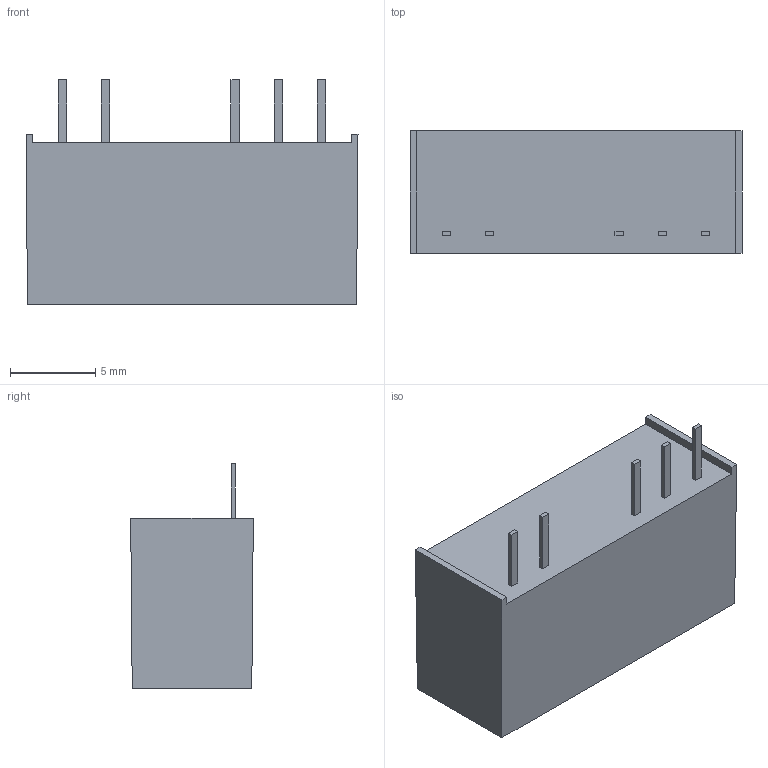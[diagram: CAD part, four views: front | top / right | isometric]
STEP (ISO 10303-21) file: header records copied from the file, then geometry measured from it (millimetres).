
FILE_DESCRIPTION(/* description */ (''),/* implementation_level */ '2;1');
FILE_NAME(/* name */ 'C:\Users\CALLIOPE\Documents\Inventor\mau100.200\3D\X2\5C3A5BF8591689C0\X0\\型錄用-STEP檔\MAU200(15V&24V).stp',/* time_stamp */ '2015-03-13T08:28:00+08:00',/* author */ ('CALLIOPE'),/* organization */ (''),/* preprocessor_version */ 'ST-DEVELOPER v15.6',/* originating_system */ 'Autodesk Inventor 2015',/* authorisation */ '');
FILE_SCHEMA (('AUTOMOTIVE_DESIGN { 1 0 10303 214 3 1 1 }'));
Length unit declared in the file: millimetre
Products named in the file (1): MAU200(15V&24V)
Bounding box: 19.5 x 7.2 x 13.2 mm (x, y, z)
Volume: 1315.8 mm3; surface area: 822.8 mm2
Topology: 1 solids, 1 shells, 35 faces, 84 edges, 56 vertices
Faces by surface type: plane 35
Entity records: 1022 total; most frequent: CARTESIAN_POINT 176, ORIENTED_EDGE 168, DIRECTION 156, LINE 84, VECTOR 84, EDGE_CURVE 84, VERTEX_POINT 56, EDGE_LOOP 40
